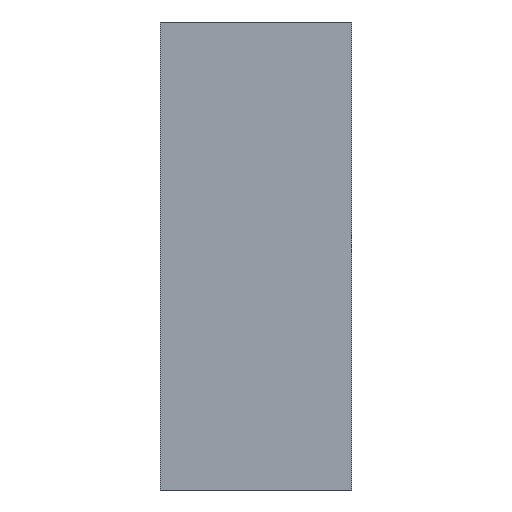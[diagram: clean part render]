
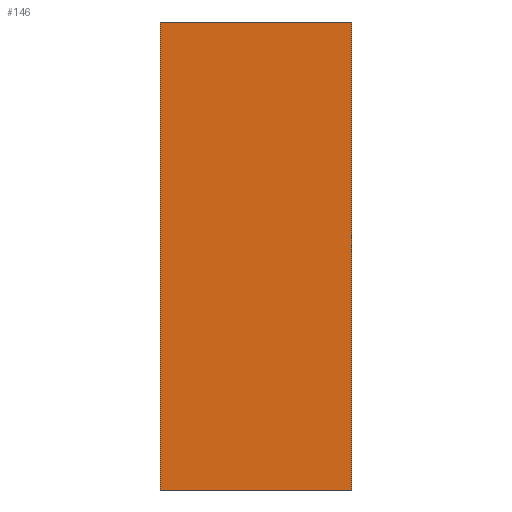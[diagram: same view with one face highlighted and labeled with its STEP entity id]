
A CAD part, front view. The second image highlights one B-rep face of the part: STEP entity #146.
In plain terms, the highlighted planar face has unit normal (0, -1, 0).
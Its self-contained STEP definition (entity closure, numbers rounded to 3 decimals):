
#6 = LINE ( 'NONE', #135, #68 ) ;
#9 = AXIS2_PLACEMENT_3D ( 'NONE', #63, #102, #86 ) ;
#22 = CARTESIAN_POINT ( 'NONE',  ( 12.7, 0., -31. ) ) ;
#24 = CARTESIAN_POINT ( 'NONE',  ( 0., 0., 0. ) ) ;
#42 = EDGE_CURVE ( 'NONE', #51, #112, #56, .T. ) ;
#48 = CARTESIAN_POINT ( 'NONE',  ( 0., 0., 0. ) ) ;
#49 = ORIENTED_EDGE ( 'NONE', *, *, #219, .F. ) ;
#51 = VERTEX_POINT ( 'NONE', #131 ) ;
#54 = DIRECTION ( 'NONE',  ( 0., 0., -1. ) ) ;
#56 = LINE ( 'NONE', #173, #100 ) ;
#60 = CARTESIAN_POINT ( 'NONE',  ( 0., 0., -31. ) ) ;
#63 = CARTESIAN_POINT ( 'NONE',  ( 0., 0., 0. ) ) ;
#65 = ORIENTED_EDGE ( 'NONE', *, *, #42, .F. ) ;
#68 = VECTOR ( 'NONE', #215, 1000. ) ;
#69 = ORIENTED_EDGE ( 'NONE', *, *, #196, .F. ) ;
#81 = LINE ( 'NONE', #160, #184 ) ;
#86 = DIRECTION ( 'NONE',  ( 0., 0., -1. ) ) ;
#93 = VERTEX_POINT ( 'NONE', #60 ) ;
#100 = VECTOR ( 'NONE', #54, 1000. ) ;
#102 = DIRECTION ( 'NONE',  ( 0., -1., 0. ) ) ;
#112 = VERTEX_POINT ( 'NONE', #22 ) ;
#131 = CARTESIAN_POINT ( 'NONE',  ( 12.7, 0., 0. ) ) ;
#135 = CARTESIAN_POINT ( 'NONE',  ( 0., 0., -31. ) ) ;
#146 = ADVANCED_FACE ( 'NONE', ( #198 ), #202, .T. ) ;
#160 = CARTESIAN_POINT ( 'NONE',  ( 0., 0., 0. ) ) ;
#165 = VERTEX_POINT ( 'NONE', #24 ) ;
#173 = CARTESIAN_POINT ( 'NONE',  ( 12.7, 0., 0. ) ) ;
#184 = VECTOR ( 'NONE', #238, 1000. ) ;
#188 = EDGE_LOOP ( 'NONE', ( #69, #49, #65, #214 ) ) ;
#196 = EDGE_CURVE ( 'NONE', #93, #165, #81, .T. ) ;
#198 = FACE_OUTER_BOUND ( 'NONE', #188, .T. ) ;
#202 = PLANE ( 'NONE',  #9 ) ;
#204 = DIRECTION ( 'NONE',  ( 1., 0., 0. ) ) ;
#207 = VECTOR ( 'NONE', #204, 1000. ) ;
#214 = ORIENTED_EDGE ( 'NONE', *, *, #246, .F. ) ;
#215 = DIRECTION ( 'NONE',  ( -1., 0., 0. ) ) ;
#219 = EDGE_CURVE ( 'NONE', #112, #93, #6, .T. ) ;
#238 = DIRECTION ( 'NONE',  ( 0., 0., 1. ) ) ;
#240 = LINE ( 'NONE', #48, #207 ) ;
#246 = EDGE_CURVE ( 'NONE', #165, #51, #240, .T. ) ;
